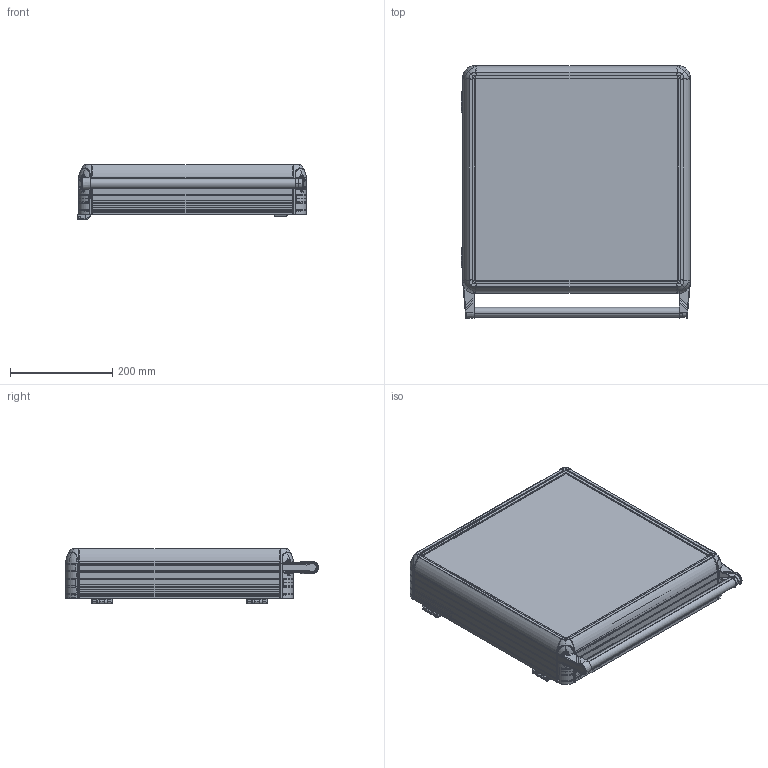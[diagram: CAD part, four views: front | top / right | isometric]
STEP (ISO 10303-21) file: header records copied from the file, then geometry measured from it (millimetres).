
FILE_DESCRIPTION (( 'STEP AP214' ), '1' );
FILE_NAME ('9000-0108.STEP', '2022-09-01T06:19:17', ( '' ), ( '' ), 'SwSTEP 2.0', 'SolidWorks 2022', '' );
FILE_SCHEMA (( 'AUTOMOTIVE_DESIGN' ));
Length unit declared in the file: millimetre
Products named in the file (8): HPECO-090-001-295_395; boru_425; 9000-0108; ARKA_KAPAK_400X400; ECO9000-0100(SAÐ); 400X400; ECO9000-0000; ECO9000-0100(SOL)
Assembly tree (11 placements, depth 2):
  9000-0108
    400X400
    ARKA_KAPAK_400X400
    HPECO-090-001-295_395  x4
    ECO9000-0100(SAÐ)
    ECO9000-0100(SOL)
    ECO9000-0000  x2
    boru_425
Bounding box: 449.03 x 495.78 x 109.16 mm (x, y, z)
Volume: 1076754.4 mm3; surface area: 1592834.5 mm2
Topology: 37 solids, 71 shells, 6532 faces, 17863 edges, 11065 vertices
Faces by surface type: plane 2620, cylinder 1862, bspline 1124, cone 576, torus 300, sphere 50
Entity records: 242967 total; most frequent: CARTESIAN_POINT 67475, ORIENTED_EDGE 27848, DIRECTION 22689, EDGE_CURVE 13924, VERTEX_POINT 8648, AXIS2_PLACEMENT_3D 8213, LINE 6263, VECTOR 6263
